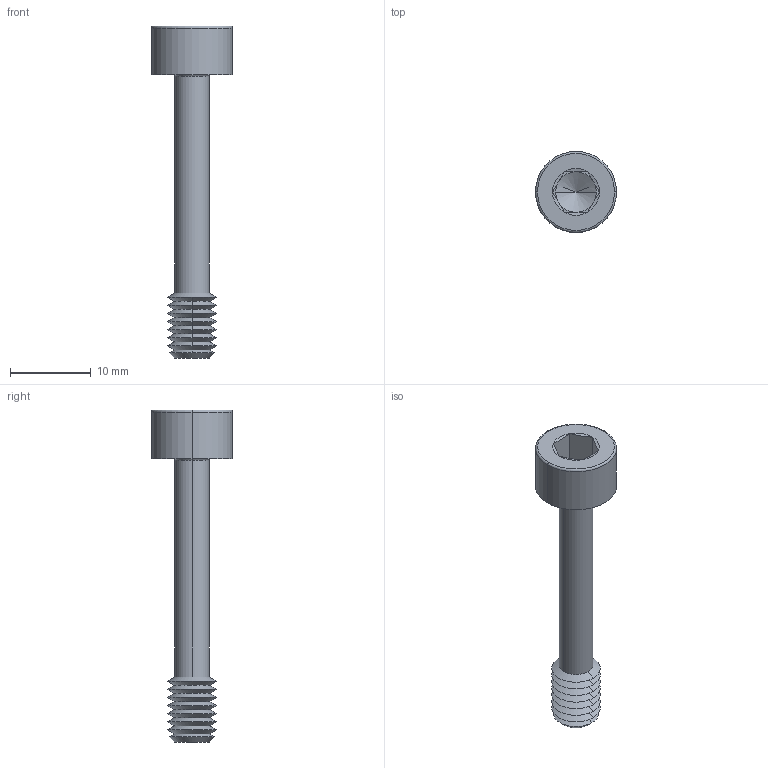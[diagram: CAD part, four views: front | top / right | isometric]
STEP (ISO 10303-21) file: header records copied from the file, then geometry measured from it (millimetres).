
FILE_DESCRIPTION (( 'STEP AP203' ), '1' );
FILE_NAME ('P0154.060-035-BL.step', '2024-06-17T11:29:32', ( '' ), ( '' ), 'SwSTEP 2.0', 'SolidWorks 2019', '' );
FILE_SCHEMA (( 'CONFIG_CONTROL_DESIGN' ));
Length unit declared in the file: millimetre
Products named in the file (1): P0154.060-035-BL
Bounding box: 10 x 10 x 41 mm (x, y, z)
Volume: 892.5 mm3; surface area: 1037.4 mm2
Topology: 1 solids, 1 shells, 63 faces, 128 edges, 67 vertices
Faces by surface type: cone 40, plane 15, torus 4, cylinder 4
Entity records: 1687 total; most frequent: DIRECTION 312, CARTESIAN_POINT 283, ORIENTED_EDGE 252, AXIS2_PLACEMENT_3D 128, EDGE_CURVE 126, VERTEX_POINT 67, EDGE_LOOP 65, CIRCLE 64
